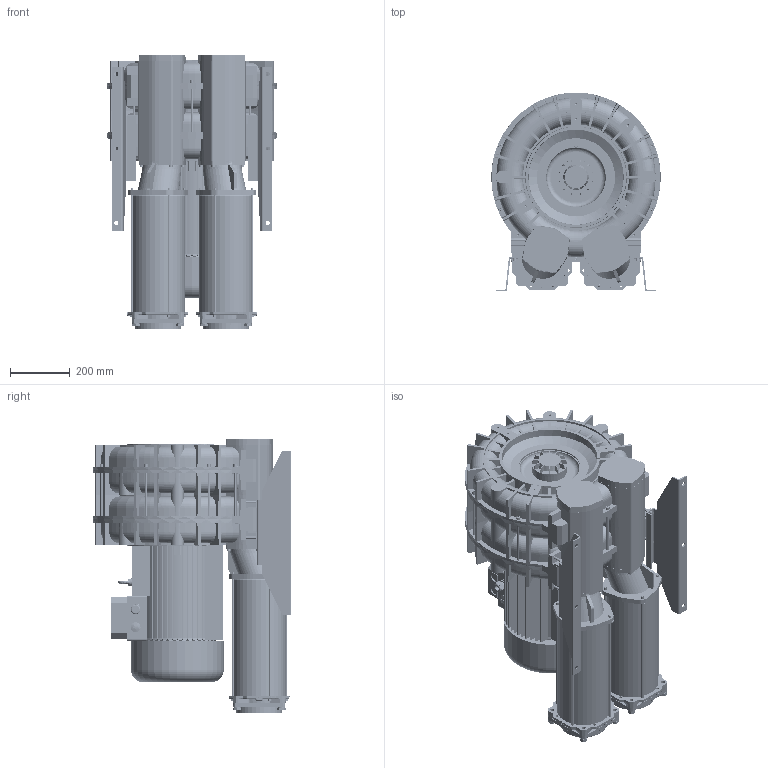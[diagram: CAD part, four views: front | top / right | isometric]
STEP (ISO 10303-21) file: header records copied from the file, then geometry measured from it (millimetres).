
FILE_DESCRIPTION (( 'STEP AP203' ), '1' );
FILE_NAME ('STP-L_e_11_TS_MOR_IE3WR_160_22kW-3_24-00.step', '2025-01-14T09:31:05', ( '' ), ( '' ), 'SwSTEP 2.0', 'SolidWorks 2024', '' );
FILE_SCHEMA (( 'CONFIG_CONTROL_DESIGN' ));
Length unit declared in the file: millimetre
Products named in the file (1): STP-L_e_11_TS_MOR_IE3WR_160_22kW-3_24-00
Bounding box: 568 x 666 x 921.5 mm (x, y, z)
Volume: 124452048.3 mm3; surface area: 6945302.4 mm2
Topology: 120 solids, 120 shells, 5223 faces, 13482 edges, 8449 vertices
Faces by surface type: plane 2207, cylinder 1271, bspline 697, cone 514, torus 493, sphere 41
Full cylindrical faces by diameter (mm): 6.8 x20, 7.5 x4, 8 x33, 8.4 x28, 8.5 x16, 8.566 x2, 8.8 x2, 9 x24, 9.728 x2, 9.98 x2, 10 x15, 11 x12, 12 x6, 12.02 x2, 13 x53, 14 x10, 16 x20, 17 x16, 18 x1, 19 x4, 24 x16, 24.4 x1, 27 x7, 28 x3, 32.5 x1, 33 x1, 90.4 x2, 94.7 x1, 115 x4, 120 x1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
Entity records: 192295 total; most frequent: CARTESIAN_POINT 76162, ORIENTED_EDGE 25022, DIRECTION 22321, EDGE_CURVE 12511, AXIS2_PLACEMENT_3D 8723, VERTEX_POINT 8226, EDGE_LOOP 6209, FACE_OUTER_BOUND 5647
